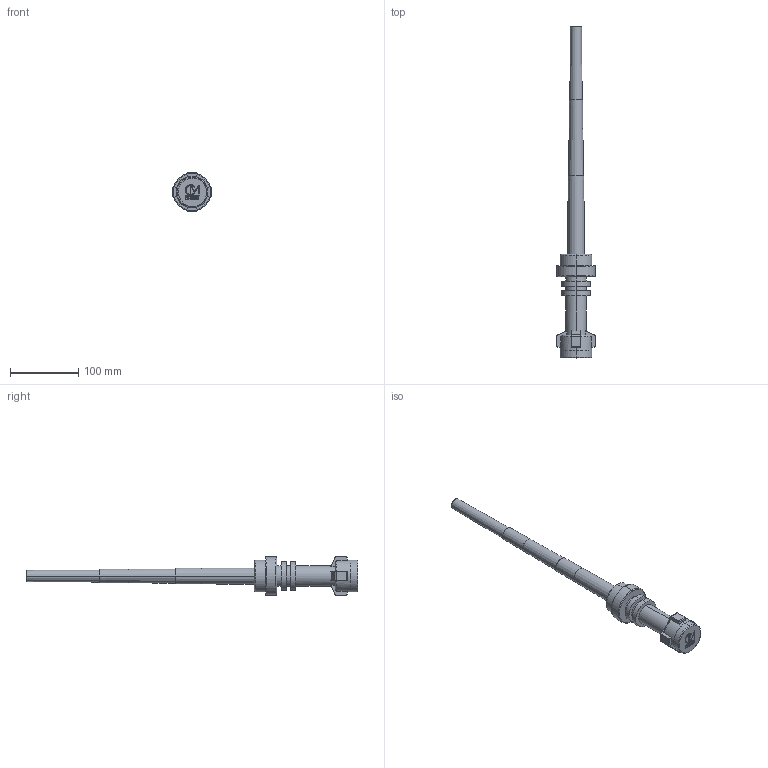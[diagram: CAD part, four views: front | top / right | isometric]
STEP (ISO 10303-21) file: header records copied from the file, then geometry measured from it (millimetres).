
FILE_DESCRIPTION (( 'STEP AP214' ), '1' );
FILE_NAME ('Lego Light Saber Extended.STEP', '2022-01-31T00:25:50', ( '' ), ( '' ), 'SwSTEP 2.0', 'SolidWorks 2020', '' );
FILE_SCHEMA (( 'AUTOMOTIVE_DESIGN' ));
Length unit declared in the file: inch
Products named in the file (1): Lego Light Saber Extended
Bounding box: 56.1 x 486.36 x 56.1 mm (x, y, z)
Volume: 132620.8 mm3; surface area: 105123.1 mm2
Topology: 5 solids, 5 shells, 288 faces, 758 edges, 504 vertices
Faces by surface type: plane 119, bspline 108, cylinder 35, cone 14, torus 12
Entity records: 14759 total; most frequent: CARTESIAN_POINT 8270, ORIENTED_EDGE 1510, DIRECTION 994, EDGE_CURVE 755, VERTEX_POINT 498, LINE 392, VECTOR 392, EDGE_LOOP 315
